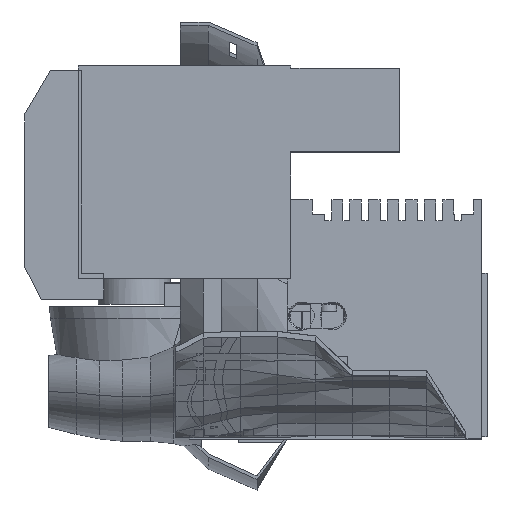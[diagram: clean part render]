
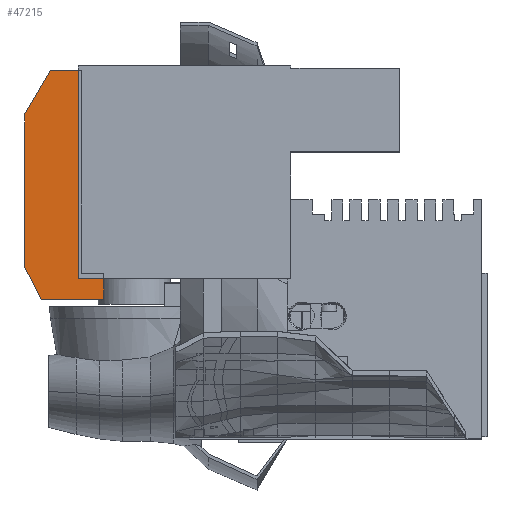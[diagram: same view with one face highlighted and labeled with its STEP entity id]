
A CAD part, front view. The second image highlights one B-rep face of the part: STEP entity #47215.
In plain terms, the highlighted planar face has unit normal (0, -1, 0).
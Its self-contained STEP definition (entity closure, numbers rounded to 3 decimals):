
#8042 = VERTEX_POINT('',#8043);
#8043 = CARTESIAN_POINT('',(-143.,-114.,109.));
#8084 = PLANE('',#8085);
#8085 = AXIS2_PLACEMENT_3D('',#8086,#8087,#8088);
#8086 = CARTESIAN_POINT('',(-143.,-114.,100.2));
#8087 = DIRECTION('',(1.,0.,0.));
#8088 = DIRECTION('',(0.,0.,1.));
#20187 = PLANE('',#20188);
#20188 = AXIS2_PLACEMENT_3D('',#20189,#20190,#20191);
#20189 = CARTESIAN_POINT('',(-177.,-114.,180.));
#20190 = DIRECTION('',(-1.,0.,0.));
#20191 = DIRECTION('',(0.,0.,-1.));
#20215 = PLANE('',#20216);
#20216 = AXIS2_PLACEMENT_3D('',#20217,#20218,#20219);
#20217 = CARTESIAN_POINT('',(-177.,-114.,114.));
#20218 = DIRECTION('',(-0.892,0.,-0.452));
#20219 = DIRECTION('',(0.452,0.,-0.892));
#20243 = PLANE('',#20244);
#20244 = AXIS2_PLACEMENT_3D('',#20245,#20246,#20247);
#20245 = CARTESIAN_POINT('',(-170.,-114.,100.2));
#20246 = DIRECTION('',(0.,0.,-1.));
#20247 = DIRECTION('',(1.,0.,0.));
#20440 = PLANE('',#20441);
#20441 = AXIS2_PLACEMENT_3D('',#20442,#20443,#20444);
#20442 = CARTESIAN_POINT('',(-152.5,-114.,198.7));
#20443 = DIRECTION('',(0.,0.,1.));
#20444 = DIRECTION('',(-1.,0.,0.));
#20466 = PLANE('',#20467);
#20467 = AXIS2_PLACEMENT_3D('',#20468,#20469,#20470);
#20468 = CARTESIAN_POINT('',(-166.,-114.,198.7));
#20469 = DIRECTION('',(-0.862,0.,0.507));
#20470 = DIRECTION('',(-0.507,0.,-0.862));
#20587 = EDGE_CURVE('',#20588,#8042,#20590,.T.);
#20588 = VERTEX_POINT('',#20589);
#20589 = CARTESIAN_POINT('',(-143.,-114.,100.2));
#20590 = SURFACE_CURVE('',#20591,(#20595,#20602),.PCURVE_S1.);
#20591 = LINE('',#20592,#20593);
#20592 = CARTESIAN_POINT('',(-143.,-114.,100.2));
#20593 = VECTOR('',#20594,1.);
#20594 = DIRECTION('',(0.,0.,1.));
#20595 = PCURVE('',#8084,#20596);
#20596 = DEFINITIONAL_REPRESENTATION('',(#20597),#20601);
#20597 = LINE('',#20598,#20599);
#20598 = CARTESIAN_POINT('',(0.,0.));
#20599 = VECTOR('',#20600,1.);
#20600 = DIRECTION('',(1.,0.));
#20601 = ( GEOMETRIC_REPRESENTATION_CONTEXT(2) 
PARAMETRIC_REPRESENTATION_CONTEXT() REPRESENTATION_CONTEXT('2D SPACE',''
  ) );
#20602 = PCURVE('',#20603,#20608);
#20603 = PLANE('',#20604);
#20604 = AXIS2_PLACEMENT_3D('',#20605,#20606,#20607);
#20605 = CARTESIAN_POINT('',(-162.043,-114.,145.565));
#20606 = DIRECTION('',(-0.,-1.,-0.));
#20607 = DIRECTION('',(0.,0.,-1.));
#20608 = DEFINITIONAL_REPRESENTATION('',(#20609),#20613);
#20609 = LINE('',#20610,#20611);
#20610 = CARTESIAN_POINT('',(45.365,19.043));
#20611 = VECTOR('',#20612,1.);
#20612 = DIRECTION('',(-1.,0.));
#20613 = ( GEOMETRIC_REPRESENTATION_CONTEXT(2) 
PARAMETRIC_REPRESENTATION_CONTEXT() REPRESENTATION_CONTEXT('2D SPACE',''
  ) );
#20806 = VERTEX_POINT('',#20807);
#20807 = CARTESIAN_POINT('',(-154.,-114.,198.7));
#20849 = PLANE('',#20850);
#20850 = AXIS2_PLACEMENT_3D('',#20851,#20852,#20853);
#20851 = CARTESIAN_POINT('',(-90.442,-114.,160.348));
#20852 = DIRECTION('',(-0.,-1.,-0.));
#20853 = DIRECTION('',(0.,0.,-1.));
#46602 = VERTEX_POINT('',#46603);
#46603 = CARTESIAN_POINT('',(-177.,-114.,180.));
#46626 = VERTEX_POINT('',#46627);
#46627 = CARTESIAN_POINT('',(-177.,-114.,114.));
#46648 = EDGE_CURVE('',#46602,#46626,#46649,.T.);
#46649 = SURFACE_CURVE('',#46650,(#46654,#46661),.PCURVE_S1.);
#46650 = LINE('',#46651,#46652);
#46651 = CARTESIAN_POINT('',(-177.,-114.,180.));
#46652 = VECTOR('',#46653,1.);
#46653 = DIRECTION('',(0.,0.,-1.));
#46654 = PCURVE('',#20187,#46655);
#46655 = DEFINITIONAL_REPRESENTATION('',(#46656),#46660);
#46656 = LINE('',#46657,#46658);
#46657 = CARTESIAN_POINT('',(0.,-0.));
#46658 = VECTOR('',#46659,1.);
#46659 = DIRECTION('',(1.,0.));
#46660 = ( GEOMETRIC_REPRESENTATION_CONTEXT(2) 
PARAMETRIC_REPRESENTATION_CONTEXT() REPRESENTATION_CONTEXT('2D SPACE',''
  ) );
#46661 = PCURVE('',#20603,#46662);
#46662 = DEFINITIONAL_REPRESENTATION('',(#46663),#46667);
#46663 = LINE('',#46664,#46665);
#46664 = CARTESIAN_POINT('',(-34.435,-14.957));
#46665 = VECTOR('',#46666,1.);
#46666 = DIRECTION('',(1.,0.));
#46667 = ( GEOMETRIC_REPRESENTATION_CONTEXT(2) 
PARAMETRIC_REPRESENTATION_CONTEXT() REPRESENTATION_CONTEXT('2D SPACE',''
  ) );
#46673 = VERTEX_POINT('',#46674);
#46674 = CARTESIAN_POINT('',(-166.,-114.,198.7));
#46697 = EDGE_CURVE('',#46673,#46602,#46698,.T.);
#46698 = SURFACE_CURVE('',#46699,(#46703,#46710),.PCURVE_S1.);
#46699 = LINE('',#46700,#46701);
#46700 = CARTESIAN_POINT('',(-166.,-114.,198.7));
#46701 = VECTOR('',#46702,1.);
#46702 = DIRECTION('',(-0.507,0.,-0.862));
#46703 = PCURVE('',#20466,#46704);
#46704 = DEFINITIONAL_REPRESENTATION('',(#46705),#46709);
#46705 = LINE('',#46706,#46707);
#46706 = CARTESIAN_POINT('',(0.,0.));
#46707 = VECTOR('',#46708,1.);
#46708 = DIRECTION('',(1.,0.));
#46709 = ( GEOMETRIC_REPRESENTATION_CONTEXT(2) 
PARAMETRIC_REPRESENTATION_CONTEXT() REPRESENTATION_CONTEXT('2D SPACE',''
  ) );
#46710 = PCURVE('',#20603,#46711);
#46711 = DEFINITIONAL_REPRESENTATION('',(#46712),#46716);
#46712 = LINE('',#46713,#46714);
#46713 = CARTESIAN_POINT('',(-53.135,-3.957));
#46714 = VECTOR('',#46715,1.);
#46715 = DIRECTION('',(0.862,-0.507));
#46716 = ( GEOMETRIC_REPRESENTATION_CONTEXT(2) 
PARAMETRIC_REPRESENTATION_CONTEXT() REPRESENTATION_CONTEXT('2D SPACE',''
  ) );
#46721 = EDGE_CURVE('',#20806,#46673,#46722,.T.);
#46722 = SURFACE_CURVE('',#46723,(#46727,#46734),.PCURVE_S1.);
#46723 = LINE('',#46724,#46725);
#46724 = CARTESIAN_POINT('',(-152.5,-114.,198.7));
#46725 = VECTOR('',#46726,1.);
#46726 = DIRECTION('',(-1.,0.,0.));
#46727 = PCURVE('',#20440,#46728);
#46728 = DEFINITIONAL_REPRESENTATION('',(#46729),#46733);
#46729 = LINE('',#46730,#46731);
#46730 = CARTESIAN_POINT('',(0.,0.));
#46731 = VECTOR('',#46732,1.);
#46732 = DIRECTION('',(1.,0.));
#46733 = ( GEOMETRIC_REPRESENTATION_CONTEXT(2) 
PARAMETRIC_REPRESENTATION_CONTEXT() REPRESENTATION_CONTEXT('2D SPACE',''
  ) );
#46734 = PCURVE('',#20603,#46735);
#46735 = DEFINITIONAL_REPRESENTATION('',(#46736),#46740);
#46736 = LINE('',#46737,#46738);
#46737 = CARTESIAN_POINT('',(-53.135,9.543));
#46738 = VECTOR('',#46739,1.);
#46739 = DIRECTION('',(0.,-1.));
#46740 = ( GEOMETRIC_REPRESENTATION_CONTEXT(2) 
PARAMETRIC_REPRESENTATION_CONTEXT() REPRESENTATION_CONTEXT('2D SPACE',''
  ) );
#46943 = VERTEX_POINT('',#46944);
#46944 = CARTESIAN_POINT('',(-170.,-114.,100.2));
#46967 = EDGE_CURVE('',#46943,#20588,#46968,.T.);
#46968 = SURFACE_CURVE('',#46969,(#46973,#46980),.PCURVE_S1.);
#46969 = LINE('',#46970,#46971);
#46970 = CARTESIAN_POINT('',(-170.,-114.,100.2));
#46971 = VECTOR('',#46972,1.);
#46972 = DIRECTION('',(1.,0.,0.));
#46973 = PCURVE('',#20243,#46974);
#46974 = DEFINITIONAL_REPRESENTATION('',(#46975),#46979);
#46975 = LINE('',#46976,#46977);
#46976 = CARTESIAN_POINT('',(0.,0.));
#46977 = VECTOR('',#46978,1.);
#46978 = DIRECTION('',(1.,0.));
#46979 = ( GEOMETRIC_REPRESENTATION_CONTEXT(2) 
PARAMETRIC_REPRESENTATION_CONTEXT() REPRESENTATION_CONTEXT('2D SPACE',''
  ) );
#46980 = PCURVE('',#20603,#46981);
#46981 = DEFINITIONAL_REPRESENTATION('',(#46982),#46986);
#46982 = LINE('',#46983,#46984);
#46983 = CARTESIAN_POINT('',(45.365,-7.957));
#46984 = VECTOR('',#46985,1.);
#46985 = DIRECTION('',(0.,1.));
#46986 = ( GEOMETRIC_REPRESENTATION_CONTEXT(2) 
PARAMETRIC_REPRESENTATION_CONTEXT() REPRESENTATION_CONTEXT('2D SPACE',''
  ) );
#46994 = EDGE_CURVE('',#46626,#46943,#46995,.T.);
#46995 = SURFACE_CURVE('',#46996,(#47000,#47007),.PCURVE_S1.);
#46996 = LINE('',#46997,#46998);
#46997 = CARTESIAN_POINT('',(-177.,-114.,114.));
#46998 = VECTOR('',#46999,1.);
#46999 = DIRECTION('',(0.452,0.,-0.892));
#47000 = PCURVE('',#20215,#47001);
#47001 = DEFINITIONAL_REPRESENTATION('',(#47002),#47006);
#47002 = LINE('',#47003,#47004);
#47003 = CARTESIAN_POINT('',(0.,0.));
#47004 = VECTOR('',#47005,1.);
#47005 = DIRECTION('',(1.,0.));
#47006 = ( GEOMETRIC_REPRESENTATION_CONTEXT(2) 
PARAMETRIC_REPRESENTATION_CONTEXT() REPRESENTATION_CONTEXT('2D SPACE',''
  ) );
#47007 = PCURVE('',#20603,#47008);
#47008 = DEFINITIONAL_REPRESENTATION('',(#47009),#47013);
#47009 = LINE('',#47010,#47011);
#47010 = CARTESIAN_POINT('',(31.565,-14.957));
#47011 = VECTOR('',#47012,1.);
#47012 = DIRECTION('',(0.892,0.452));
#47013 = ( GEOMETRIC_REPRESENTATION_CONTEXT(2) 
PARAMETRIC_REPRESENTATION_CONTEXT() REPRESENTATION_CONTEXT('2D SPACE',''
  ) );
#47215 = ADVANCED_FACE('',(#47216),#20603,.T.);
#47216 = FACE_BOUND('',#47217,.T.);
#47217 = EDGE_LOOP('',(#47218,#47219,#47220,#47221,#47222,#47245,#47266,
    #47267));
#47218 = ORIENTED_EDGE('',*,*,#46648,.T.);
#47219 = ORIENTED_EDGE('',*,*,#46994,.T.);
#47220 = ORIENTED_EDGE('',*,*,#46967,.T.);
#47221 = ORIENTED_EDGE('',*,*,#20587,.T.);
#47222 = ORIENTED_EDGE('',*,*,#47223,.F.);
#47223 = EDGE_CURVE('',#47224,#8042,#47226,.T.);
#47224 = VERTEX_POINT('',#47225);
#47225 = CARTESIAN_POINT('',(-154.,-114.,109.));
#47226 = SURFACE_CURVE('',#47227,(#47231,#47238),.PCURVE_S1.);
#47227 = LINE('',#47228,#47229);
#47228 = CARTESIAN_POINT('',(-154.,-114.,109.));
#47229 = VECTOR('',#47230,1.);
#47230 = DIRECTION('',(1.,0.,0.));
#47231 = PCURVE('',#20603,#47232);
#47232 = DEFINITIONAL_REPRESENTATION('',(#47233),#47237);
#47233 = LINE('',#47234,#47235);
#47234 = CARTESIAN_POINT('',(36.565,8.043));
#47235 = VECTOR('',#47236,1.);
#47236 = DIRECTION('',(0.,1.));
#47237 = ( GEOMETRIC_REPRESENTATION_CONTEXT(2) 
PARAMETRIC_REPRESENTATION_CONTEXT() REPRESENTATION_CONTEXT('2D SPACE',''
  ) );
#47238 = PCURVE('',#20849,#47239);
#47239 = DEFINITIONAL_REPRESENTATION('',(#47240),#47244);
#47240 = LINE('',#47241,#47242);
#47241 = CARTESIAN_POINT('',(51.348,-63.558));
#47242 = VECTOR('',#47243,1.);
#47243 = DIRECTION('',(0.,1.));
#47244 = ( GEOMETRIC_REPRESENTATION_CONTEXT(2) 
PARAMETRIC_REPRESENTATION_CONTEXT() REPRESENTATION_CONTEXT('2D SPACE',''
  ) );
#47245 = ORIENTED_EDGE('',*,*,#47246,.T.);
#47246 = EDGE_CURVE('',#47224,#20806,#47247,.T.);
#47247 = SURFACE_CURVE('',#47248,(#47252,#47259),.PCURVE_S1.);
#47248 = LINE('',#47249,#47250);
#47249 = CARTESIAN_POINT('',(-154.,-114.,109.));
#47250 = VECTOR('',#47251,1.);
#47251 = DIRECTION('',(0.,0.,1.));
#47252 = PCURVE('',#20603,#47253);
#47253 = DEFINITIONAL_REPRESENTATION('',(#47254),#47258);
#47254 = LINE('',#47255,#47256);
#47255 = CARTESIAN_POINT('',(36.565,8.043));
#47256 = VECTOR('',#47257,1.);
#47257 = DIRECTION('',(-1.,0.));
#47258 = ( GEOMETRIC_REPRESENTATION_CONTEXT(2) 
PARAMETRIC_REPRESENTATION_CONTEXT() REPRESENTATION_CONTEXT('2D SPACE',''
  ) );
#47259 = PCURVE('',#20849,#47260);
#47260 = DEFINITIONAL_REPRESENTATION('',(#47261),#47265);
#47261 = LINE('',#47262,#47263);
#47262 = CARTESIAN_POINT('',(51.348,-63.558));
#47263 = VECTOR('',#47264,1.);
#47264 = DIRECTION('',(-1.,0.));
#47265 = ( GEOMETRIC_REPRESENTATION_CONTEXT(2) 
PARAMETRIC_REPRESENTATION_CONTEXT() REPRESENTATION_CONTEXT('2D SPACE',''
  ) );
#47266 = ORIENTED_EDGE('',*,*,#46721,.T.);
#47267 = ORIENTED_EDGE('',*,*,#46697,.T.);
